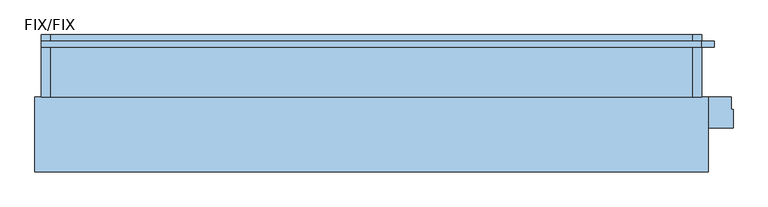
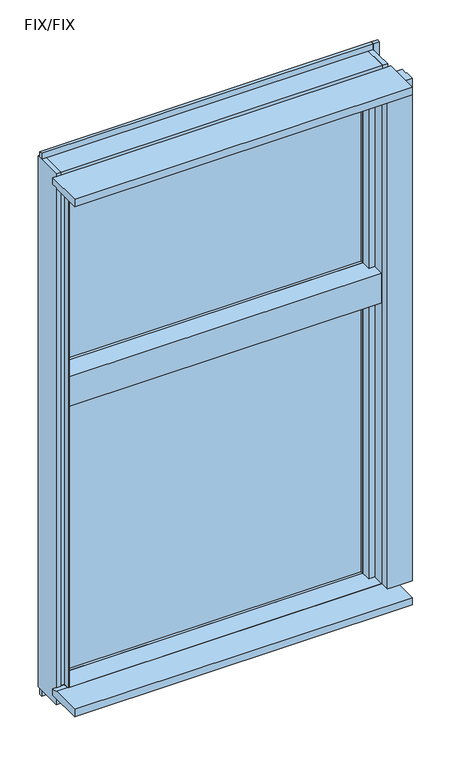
"""IFC4 building model written with IfcOpenShell, lengths in millimetres: window geometry, FNSⅡ100R_個別防火_面付枠_段窓 : FIX/FIX."""

from ifc_helpers import new_model, si_unit, frame, origin, place, context, project, spatial, polyline, outline, extrude, faceted_brep, source, transform, mapped, element, save


def fix_fix_5153bf73(model_context):
    return source(origin(), model_context, "Body", "SolidModel", [
        extrude(outline(polyline([(-480.0, 75.6), (480.0, 75.6), (480.0, 69.6), (-480.0, 69.6), (-480.0, 75.6)])), frame((0.0, 0.0, 1950.0), z_axis=(0.0, 0.0, 1.0), x_axis=(1.0, 0.0, 0.0)), (0.0, 0.0, 1.0), 650.0),
        extrude(outline(polyline([(-480.0, 93.6), (480.0, 93.6), (480.0, 87.6), (-480.0, 87.6), (-480.0, 93.6)])), frame((0.0, 0.0, 1950.0), z_axis=(0.0, 0.0, 1.0), x_axis=(1.0, 0.0, 0.0)), (0.0, 0.0, 1.0), 650.0),
        extrude(outline(polyline([(-480.0, 75.6), (480.0, 75.6), (480.0, 69.6), (-480.0, 69.6), (-480.0, 75.6)])), frame((0.0, 0.0, 900.0), z_axis=(0.0, 0.0, 1.0), x_axis=(1.0, 0.0, 0.0)), (0.0, 0.0, 1.0), 950.0),
        extrude(outline(polyline([(-480.0, 93.6), (480.0, 93.6), (480.0, 87.6), (-480.0, 87.6), (-480.0, 93.6)])), frame((0.0, 0.0, 900.0), z_axis=(0.0, 0.0, 1.0), x_axis=(1.0, 0.0, 0.0)), (0.0, 0.0, 1.0), 950.0),
        faceted_brep([(-530.0, 110.0, 840.0), (-515.0, 110.0, 840.0), (-515.0, 10.0, 840.0), (-530.0, 10.0, 840.0), (-515.0, 110.0, 2635.0), (-515.0, 10.0, 2635.0), (-515.0, 110.0, 900.0), (-515.0, 60.0, 900.0), (-515.0, 60.0, 2600.0), (-515.0, 110.0, 2600.0), (-530.0, 10.0, 2635.0), (-480.0, 110.0, 900.0), (-480.0, 60.0, 900.0), (-480.0, 110.0, 2600.0), (-480.0, 60.0, 2600.0), (-530.0, 110.0, 2635.0)], [[[0, 1, 2, 3]], [[4, 5, 2, 1, 6, 7, 8, 9]], [[5, 10, 3, 2]], [[11, 12, 7, 6]], [[13, 14, 12, 11]], [[15, 10, 5, 4]], [[15, 4, 9, 13, 11, 6, 1, 0]], [[10, 15, 0, 3]], [[14, 8, 7, 12]], [[13, 9, 8, 14]]]),
        faceted_brep([(530.0, 110.0, 840.0), (530.0, 10.0, 840.0), (515.0, 10.0, 840.0), (515.0, 110.0, 840.0), (530.0, 110.0, 2635.0), (530.0, 10.0, 2635.0), (515.0, 10.0, 2635.0), (515.0, 110.0, 2635.0), (515.0, 110.0, 2600.0), (515.0, 60.0, 2600.0), (515.0, 60.0, 900.0), (515.0, 110.0, 900.0), (480.0, 60.0, 900.0), (480.0, 110.0, 900.0), (480.0, 110.0, 2600.0), (480.0, 60.0, 2600.0)], [[[0, 1, 2, 3]], [[4, 5, 1, 0]], [[6, 7, 8, 9, 10, 11, 3, 2]], [[10, 12, 13, 11]], [[4, 7, 6, 5]], [[5, 6, 2, 1]], [[7, 4, 0, 3, 11, 13, 14, 8]], [[15, 14, 13, 12]], [[9, 15, 12, 10]], [[8, 14, 15, 9]]]),
        extrude(outline(polyline([(500.0, -10.0), (500.0, 28.5), (480.0, 28.5), (480.0, 60.0), (515.0, 60.0), (515.0, 10.0), (503.0, 10.0), (503.0, -10.0), (500.0, -10.0)])), frame((0.0, 0.0, 900.0), z_axis=(0.0, 0.0, 1.0), x_axis=(1.0, 0.0, 0.0)), (0.0, 0.0, 1.0), 1700.0),
        extrude(outline(polyline([(-515.0, 10.0), (-515.0, 60.0), (-480.0, 60.0), (-480.0, 28.5), (-500.0, 28.5), (-500.0, -10.0), (-503.0, -10.0), (-503.0, 10.0), (-515.0, 10.0)])), frame((0.0, 0.0, 900.0), z_axis=(0.0, 0.0, 1.0), x_axis=(1.0, 0.0, 0.0)), (0.0, 0.0, 1.0), 1700.0),
        extrude(outline(polyline([(10.0, 884.0), (10.0, 897.0), (-10.0, 897.0), (-10.0, 900.0), (60.0, 900.0), (60.0, 884.0), (10.0, 884.0)])), frame((-503.0, 0.0, 0.0), z_axis=(1.0, 0.0, 0.0), x_axis=(0.0, 1.0, 0.0)), (0.0, 0.0, 1.0), 1006.0),
        extrude(outline(polyline([(110.0, 840.0), (10.0, 840.0), (10.0, 884.0), (60.0, 884.0), (60.0, 900.0), (110.0, 900.0), (110.0, 870.0), (91.0, 870.0), (91.0, 850.0), (110.0, 850.0), (110.0, 840.0)])), frame((-515.0, 0.0, 0.0), z_axis=(1.0, 0.0, 0.0), x_axis=(0.0, 1.0, 0.0)), (0.0, 0.0, 1.0), 1030.0),
        extrude(outline(polyline([(60.0, 1936.0), (10.0, 1936.0), (10.0, 1865.0), (60.0, 1865.0), (60.0, 1850.0), (-10.0, 1850.0), (-10.0, 1950.0), (60.0, 1950.0), (60.0, 1936.0)])), frame((-500.0, 0.0, 0.0), z_axis=(1.0, 0.0, 0.0), x_axis=(0.0, 1.0, 0.0)), (0.0, 0.0, 1.0), 1000.0),
        extrude(outline(polyline([(110.0, 1850.0), (60.0, 1850.0), (60.0, 1865.0), (10.0, 1865.0), (10.0, 1936.0), (60.0, 1936.0), (60.0, 1950.0), (110.0, 1950.0), (110.0, 1920.0), (91.0, 1920.0), (91.0, 1904.0), (100.5, 1900.0), (110.0, 1900.0), (110.0, 1850.0)])), frame((-480.0, 0.0, 0.0), z_axis=(1.0, 0.0, 0.0), x_axis=(0.0, 1.0, 0.0)), (0.0, 0.0, 1.0), 960.0),
        extrude(outline(polyline([(60.0, 2600.0), (-10.0, 2600.0), (-10.0, 2603.0), (10.0, 2603.0), (10.0, 2615.0), (60.0, 2615.0), (60.0, 2600.0)])), frame((-503.0, 0.0, 0.0), z_axis=(1.0, 0.0, 0.0), x_axis=(0.0, 1.0, 0.0)), (0.0, 0.0, 1.0), 1006.0),
        extrude(outline(polyline([(110.0, 2600.0), (60.0, 2600.0), (60.0, 2615.0), (10.0, 2615.0), (10.0, 2635.0), (110.0, 2635.0), (110.0, 2600.0)])), frame((-515.0, 0.0, 0.0), z_axis=(1.0, 0.0, 0.0), x_axis=(0.0, 1.0, 0.0)), (0.0, 0.0, 1.0), 1030.0),
        extrude(outline(polyline([(-110.0, 900.0), (-10.0, 900.0), (-10.0, 897.0), (10.0, 897.0), (10.0, 875.0), (-110.0, 875.0), (-110.0, 900.0)])), frame((-540.0, 0.0, 0.0), z_axis=(1.0, 0.0, 0.0), x_axis=(0.0, 1.0, 0.0)), (0.0, 0.0, 1.0), 1080.0),
        extrude(outline(polyline([(-530.0, 90.0), (-530.0, 100.0), (530.0, 100.0), (530.0, 90.0), (-530.0, 90.0)])), frame((0.0, 0.0, 820.0), z_axis=(0.0, 0.0, 1.0), x_axis=(1.0, 0.0, 0.0)), (0.0, 0.0, 1.0), 20.0),
        extrude(outline(polyline([(550.0, 90.0), (530.0, 90.0), (530.0, 100.0), (550.0, 100.0), (550.0, 90.0)])), frame((0.0, 0.0, 820.0), z_axis=(0.0, 0.0, 1.0), x_axis=(1.0, 0.0, 0.0)), (0.0, 0.0, 1.0), 1835.0),
        extrude(outline(polyline([(503.0, -10.0), (503.0, 10.0), (577.0, 10.0), (577.0, -10.0), (580.0, -10.0), (580.0, -40.0), (500.0, -40.0), (500.0, -10.0), (503.0, -10.0)])), frame((0.0, 0.0, 900.0), z_axis=(0.0, 0.0, 1.0), x_axis=(1.0, 0.0, 0.0)), (0.0, 0.0, 1.0), 1700.0),
        extrude(outline(polyline([(-110.0, 2625.0), (10.0, 2625.0), (10.0, 2603.0), (-10.0, 2603.0), (-10.0, 2600.0), (-110.0, 2600.0), (-110.0, 2625.0)])), frame((-540.0, 0.0, 0.0), z_axis=(1.0, 0.0, 0.0), x_axis=(0.0, 1.0, 0.0)), (0.0, 0.0, 1.0), 1080.0),
        extrude(outline(polyline([(-530.0, 90.0), (-530.0, 100.0), (530.0, 100.0), (530.0, 90.0), (-530.0, 90.0)])), frame((0.0, 0.0, 2635.0), z_axis=(0.0, 0.0, 1.0), x_axis=(1.0, 0.0, 0.0)), (0.0, 0.0, 1.0), 20.0),
    ])


if __name__ == "__main__":
    model = new_model("IFC4")
    model_context = context("Model", 3, world=origin())
    ifc_project = project(units=[si_unit("LENGTHUNIT", "METRE", prefix="MILLI")], contexts=[model_context])
    site = spatial("IfcSite", under=ifc_project)
    building = spatial("IfcBuilding", under=site)
    placement = place(None, origin())
    fix_fix_shape = fix_fix_5153bf73(model_context)
    element("IfcWindow", 1, ObjectType="FNSⅡ100R_個別防火_面付枠_段窓 : FIX/FIX", at=placement, inside=building, context=model_context, shape_type="MappedRepresentation", body=[
        mapped(fix_fix_shape, transform((0.0, 0.0, 0.0), x_axis=(1.0, 0.0, 0.0), y_axis=(0.0, 1.0, 0.0), z_axis=(0.0, 0.0, 1.0))),
    ])
    save(model, "model.ifc")
